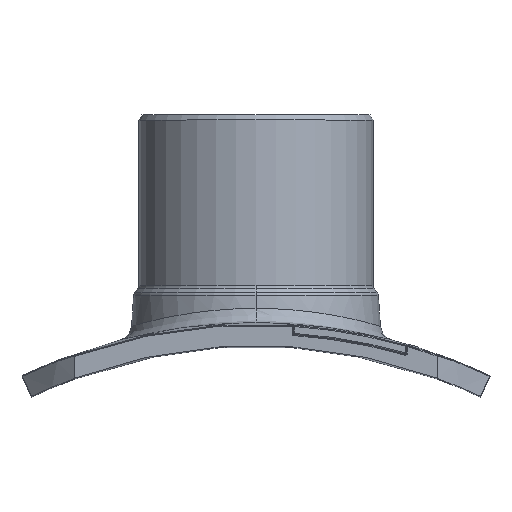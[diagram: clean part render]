
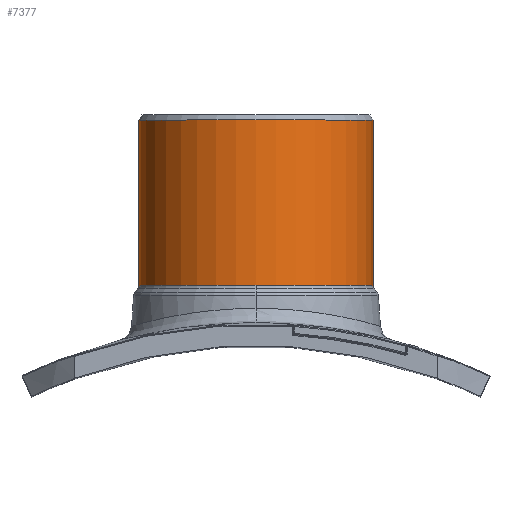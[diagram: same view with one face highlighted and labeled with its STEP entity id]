
A CAD part, top view. The second image highlights one B-rep face of the part: STEP entity #7377.
In plain terms, the highlighted cylindrical face has radius 112.5 mm (diameter 225 mm), a partial arc.
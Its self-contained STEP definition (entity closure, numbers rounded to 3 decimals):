
#1601=CARTESIAN_POINT('',(0.,558.122,0.));
#1602=DIRECTION('',(0.,-1.,0.));
#1603=DIRECTION('',(1.,0.,0.));
#1604=AXIS2_PLACEMENT_3D('',#1601,#1602,#1603);
#1609=CARTESIAN_POINT('',(0.,558.122,0.));
#1610=DIRECTION('',(0.,-1.,0.));
#1611=DIRECTION('',(0.,0.,1.));
#1612=AXIS2_PLACEMENT_3D('',#1609,#1610,#1611);
#1617=DIRECTION('',(0.,-1.,0.));
#1618=VECTOR('',#1617,158.878);
#1619=CARTESIAN_POINT('',(-112.5,717.,0.));
#1620=LINE('151588',#1619,#1618);
#1624=DIRECTION('',(0.,-1.,0.));
#1625=VECTOR('',#1624,158.878);
#1626=CARTESIAN_POINT('',(112.5,717.,0.));
#1627=LINE('151587',#1626,#1625);
#1678=CARTESIAN_POINT('',(0.,717.,0.));
#1679=DIRECTION('',(0.,1.,0.));
#1680=DIRECTION('',(-1.,0.,0.));
#1681=AXIS2_PLACEMENT_3D('',#1678,#1679,#1680);
#5780=CARTESIAN_POINT('',(112.5,717.,0.));
#5781=CARTESIAN_POINT('',(-112.5,717.,0.));
#5782=VERTEX_POINT('',#5780);
#5783=VERTEX_POINT('',#5781);
#5804=CARTESIAN_POINT('',(112.5,558.122,0.));
#5805=CARTESIAN_POINT('',(0.,558.122,112.5));
#5806=VERTEX_POINT('',#5804);
#5807=VERTEX_POINT('',#5805);
#5808=CARTESIAN_POINT('',(-112.5,558.122,0.));
#5809=VERTEX_POINT('',#5808);
#7362=CARTESIAN_POINT('',(0.,722.,0.));
#7363=DIRECTION('',(0.,1.,0.));
#7364=DIRECTION('',(1.,0.,0.));
#7365=AXIS2_PLACEMENT_3D('',#7362,#7363,#7364);
#7366=CYLINDRICAL_SURFACE('4584',#7365,112.5);
#7367=ORIENTED_EDGE('151579',*,*,#7339,.T.);
#7368=ORIENTED_EDGE('151581',*,*,#7354,.T.);
#7370=ORIENTED_EDGE('151588',*,*,#7369,.F.);
#7372=ORIENTED_EDGE('4600',*,*,#7371,.T.);
#7374=ORIENTED_EDGE('151587',*,*,#7373,.T.);
#7375=EDGE_LOOP('4584',(#7367,#7368,#7370,#7372,#7374));
#7376=FACE_OUTER_BOUND('4584',#7375,.F.);
#1605=CIRCLE('151579',#1604,112.5);
#1613=CIRCLE('151581',#1612,112.5);
#1682=CIRCLE('4600',#1681,112.5);
#7339=EDGE_CURVE('151579',#5806,#5807,#1605,.T.);
#7354=EDGE_CURVE('151581',#5807,#5809,#1613,.T.);
#7369=EDGE_CURVE('151588',#5783,#5809,#1620,.T.);
#7371=EDGE_CURVE('4600',#5783,#5782,#1682,.T.);
#7373=EDGE_CURVE('151587',#5782,#5806,#1627,.T.);
#7377=ADVANCED_FACE('4584',(#7376),#7366,.T.);
